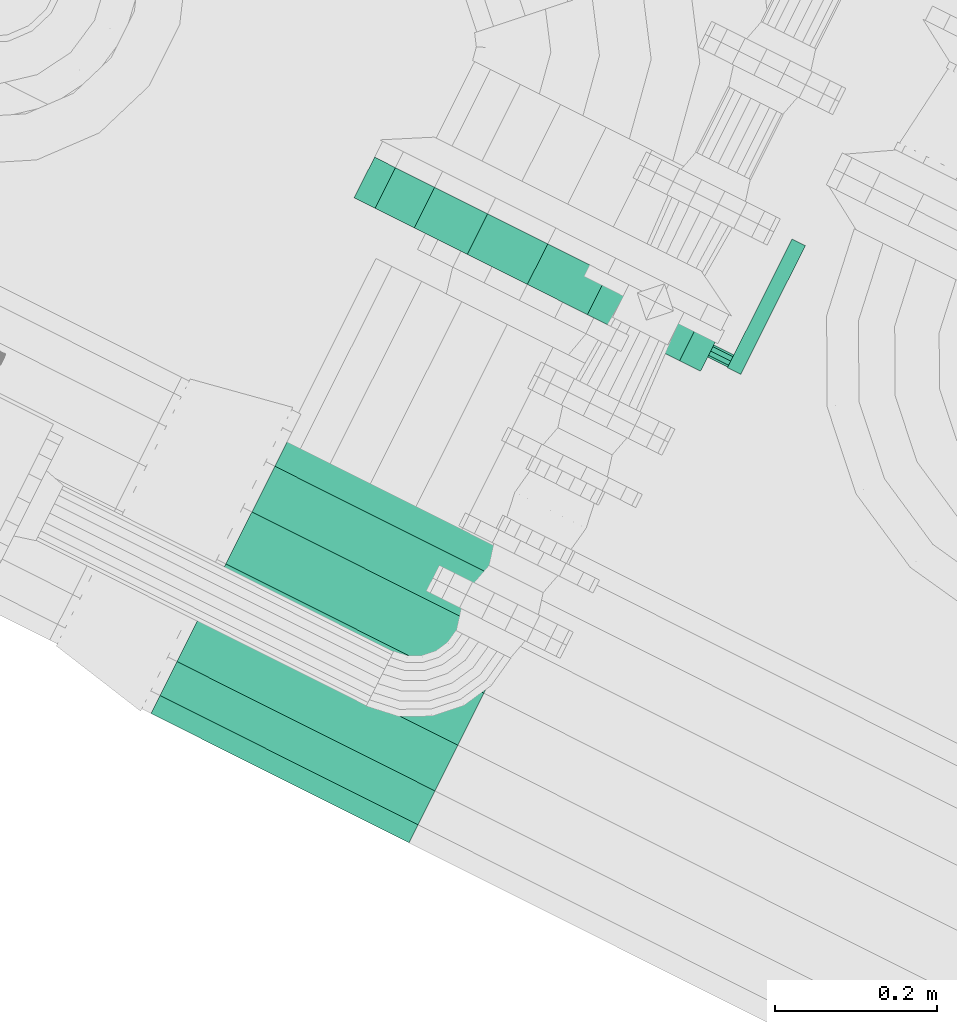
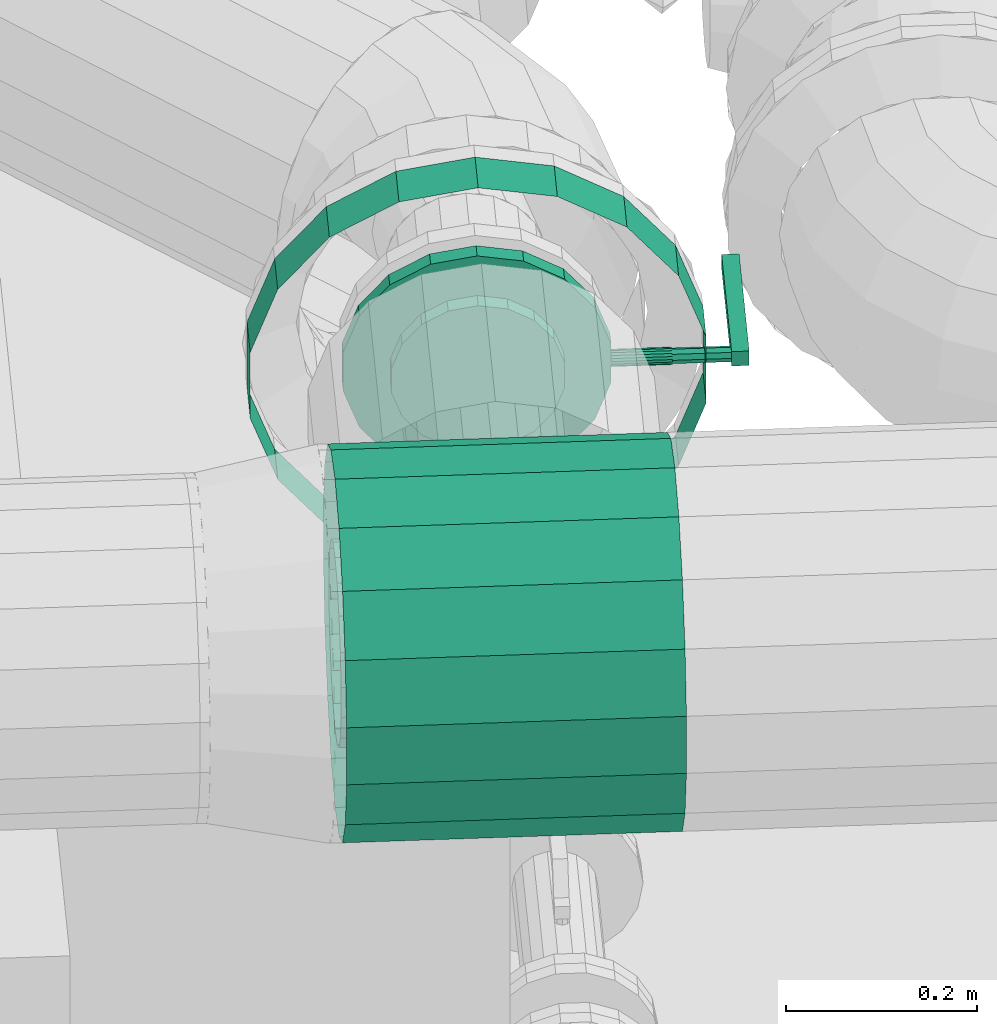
# One storey, part 57 of 206: 1 flow controller, 1 flow fitting.
"""IFC2X3 building model written with IfcOpenShell, lengths in metres."""

from ifc_helpers import new_model, si_unit, derived_unit, direction, frame, origin, place, context, subcontext, project, spatial, face_set, surface_model, source, transform, mapped, material, type_object, type_shapes, element, save


model = new_model("IFC2X3")

# Units and contexts
model_context = context("Model", 3, precision=5.2338327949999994e-05, world=origin(), true_north=direction((0.0, 1.0)))
body_context = subcontext(model_context, "Body", "Model", "MODEL_VIEW")
ifc_project = project(units=[si_unit("LENGTHUNIT", "METRE"), si_unit("AREAUNIT", "SQUARE_METRE"), si_unit("VOLUMEUNIT", "CUBIC_METRE"), si_unit("MASSUNIT", "GRAM", prefix="KILO"), si_unit("PLANEANGLEUNIT", "RADIAN"), derived_unit("THERMALTRANSMITTANCEUNIT", [(si_unit("MASSUNIT", "GRAM", prefix="KILO"), 1), (si_unit("THERMODYNAMICTEMPERATUREUNIT", "KELVIN"), -1), (si_unit("TIMEUNIT", "SECOND"), -3)])], contexts=[model_context])

# Site, building, storey
site_placement = place(None, frame((0.0, 0.0, 0.0), z_axis=(0.0, 0.0, 1.0), x_axis=(0.8939966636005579, -0.4480736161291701, 0.0)))
site = spatial("IfcSite", under=ifc_project, at=site_placement, Name="Default", CompositionType="ELEMENT")
building_placement = place(site_placement, origin())
building = spatial("IfcBuilding", under=site, at=building_placement, CompositionType="ELEMENT")
storey_placement = place(building_placement, origin())
storey = spatial("IfcBuildingStorey", under=building, at=storey_placement, Name="Erdgeschoss", CompositionType="ELEMENT", Elevation=0.0)

# Flow controller
ifc_material = material(Name="IfcSurfaceStyle #9317")
distribution_element_type_1 = type_object("IfcDistributionElementType", Name="Zwischenflanschklappe 343081:Zwischenflanschklappe 343081", material=ifc_material)
shared_shape_1 = source(origin(), body_context, "Body", "SurfaceModel", [
    surface_model("IfcFaceBasedSurfaceModel", [(25.206998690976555, 5.5402121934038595, 2.3448), (25.206998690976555, 5.36271219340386, 2.3448), (25.206998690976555, 5.36271219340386, 2.3632), (25.206998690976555, 5.5402121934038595, 2.3632), (25.225398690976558, 5.36271219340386, 2.3632), (25.225398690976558, 5.5402121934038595, 2.3632), (25.225398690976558, 5.36271219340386, 2.3448), (25.225398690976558, 5.5402121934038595, 2.3448), (24.940398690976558, 5.3999121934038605, 2.4460000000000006), (24.908932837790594, 5.3999121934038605, 2.440451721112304), (24.908932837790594, 5.381245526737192, 2.440451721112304), (24.940398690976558, 5.381245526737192, 2.4460000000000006), (24.881262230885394, 5.3999121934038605, 2.4244760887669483), (24.881262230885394, 5.381245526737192, 2.4244760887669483), (24.860724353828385, 5.3999121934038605, 2.399999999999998), (24.860724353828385, 5.381245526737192, 2.399999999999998), (24.849796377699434, 5.3999121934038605, 2.3699756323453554), (24.849796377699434, 5.381245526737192, 2.3699756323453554), (24.849796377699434, 5.3999121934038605, 2.3380243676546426), (24.849796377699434, 5.381245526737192, 2.3380243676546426), (24.860724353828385, 5.3999121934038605, 2.3080000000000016), (24.860724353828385, 5.381245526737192, 2.3080000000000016), (24.881262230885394, 5.3999121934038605, 2.283523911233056), (24.881262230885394, 5.381245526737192, 2.283523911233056), (24.908932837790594, 5.3999121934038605, 2.2675482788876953), (24.908932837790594, 5.381245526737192, 2.2675482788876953), (24.940398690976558, 5.3999121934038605, 2.2620000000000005), (24.940398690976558, 5.381245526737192, 2.2620000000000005), (24.971864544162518, 5.3999121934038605, 2.2675482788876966), (24.971864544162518, 5.381245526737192, 2.2675482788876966), (24.999535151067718, 5.3999121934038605, 2.283523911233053), (24.999535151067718, 5.381245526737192, 2.283523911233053), (25.020073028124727, 5.3999121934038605, 2.3080000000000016), (25.020073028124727, 5.381245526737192, 2.3080000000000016), (25.03100100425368, 5.3999121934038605, 2.3380243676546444), (25.03100100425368, 5.381245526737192, 2.3380243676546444), (25.03100100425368, 5.3999121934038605, 2.3699756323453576), (25.03100100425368, 5.381245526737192, 2.3699756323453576), (25.020073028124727, 5.3999121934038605, 2.399999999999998), (25.020073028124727, 5.381245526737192, 2.399999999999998), (24.999535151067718, 5.3999121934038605, 2.4244760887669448), (24.999535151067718, 5.381245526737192, 2.4244760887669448), (24.971864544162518, 5.3999121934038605, 2.4404517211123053), (24.971864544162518, 5.381245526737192, 2.4404517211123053), (24.940398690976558, 5.39991219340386, 2.354), (24.940398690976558, 5.381245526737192, 2.354), (24.940398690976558, 5.381245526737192, 2.4964999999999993), (24.89166082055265, 5.381245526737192, 2.487906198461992), (24.89166082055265, 5.362578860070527, 2.487906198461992), (24.940398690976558, 5.362578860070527, 2.4964999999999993), (24.848801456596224, 5.381245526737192, 2.4631613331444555), (24.848801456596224, 5.362578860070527, 2.4631613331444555), (24.81699007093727, 5.381245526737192, 2.4252499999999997), (24.81699007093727, 5.362578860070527, 2.4252499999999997), (24.800063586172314, 5.381245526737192, 2.3787448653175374), (24.800063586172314, 5.362578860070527, 2.3787448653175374), (24.800063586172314, 5.381245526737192, 2.3292551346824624), (24.800063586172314, 5.362578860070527, 2.3292551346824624), (24.81699007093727, 5.381245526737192, 2.28275), (24.81699007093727, 5.362578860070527, 2.28275), (24.848801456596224, 5.381245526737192, 2.2448386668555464), (24.848801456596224, 5.362578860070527, 2.2448386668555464), (24.89166082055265, 5.381245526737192, 2.2200938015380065), (24.89166082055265, 5.362578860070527, 2.2200938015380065), (24.940398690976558, 5.381245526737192, 2.2115000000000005), (24.940398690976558, 5.362578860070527, 2.2115000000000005), (24.98913656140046, 5.381245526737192, 2.220093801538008), (24.98913656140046, 5.362578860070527, 2.220093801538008), (25.031995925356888, 5.381245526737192, 2.2448386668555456), (25.031995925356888, 5.362578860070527, 2.2448386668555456), (25.063807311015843, 5.381245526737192, 2.28275), (25.063807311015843, 5.362578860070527, 2.28275), (25.080733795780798, 5.381245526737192, 2.3292551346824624), (25.080733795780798, 5.362578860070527, 2.3292551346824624), (25.080733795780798, 5.381245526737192, 2.3787448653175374), (25.080733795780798, 5.362578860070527, 2.3787448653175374), (25.063807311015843, 5.381245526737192, 2.4252499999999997), (25.063807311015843, 5.362578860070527, 2.4252499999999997), (25.031995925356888, 5.381245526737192, 2.4631613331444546), (25.031995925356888, 5.362578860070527, 2.4631613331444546), (24.98913656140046, 5.381245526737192, 2.4879061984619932), (24.98913656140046, 5.362578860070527, 2.4879061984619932), (24.940398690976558, 5.362578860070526, 2.354), (24.940398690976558, 5.362578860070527, 2.4460000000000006), (24.908932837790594, 5.362578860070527, 2.440451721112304), (24.908932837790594, 5.3439121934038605, 2.440451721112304), (24.940398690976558, 5.3439121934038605, 2.4460000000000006), (24.881262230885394, 5.362578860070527, 2.4244760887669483), (24.881262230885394, 5.3439121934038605, 2.4244760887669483), (24.860724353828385, 5.362578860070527, 2.399999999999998), (24.860724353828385, 5.3439121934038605, 2.399999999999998), (24.849796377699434, 5.362578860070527, 2.3699756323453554), (24.849796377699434, 5.3439121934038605, 2.3699756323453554), (24.849796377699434, 5.362578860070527, 2.3380243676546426), (24.849796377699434, 5.3439121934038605, 2.3380243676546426), (24.860724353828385, 5.362578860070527, 2.3080000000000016), (24.860724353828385, 5.3439121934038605, 2.3080000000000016), (24.881262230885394, 5.362578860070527, 2.283523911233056), (24.881262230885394, 5.3439121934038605, 2.283523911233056), (24.908932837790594, 5.362578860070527, 2.2675482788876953), (24.908932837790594, 5.3439121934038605, 2.2675482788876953), (24.940398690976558, 5.362578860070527, 2.2620000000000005), (24.940398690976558, 5.3439121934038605, 2.2620000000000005), (24.971864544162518, 5.362578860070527, 2.2675482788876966), (24.971864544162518, 5.3439121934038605, 2.2675482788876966), (24.999535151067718, 5.362578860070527, 2.283523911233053), (24.999535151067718, 5.3439121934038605, 2.283523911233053), (25.020073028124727, 5.362578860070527, 2.3080000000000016), (25.020073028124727, 5.3439121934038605, 2.3080000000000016), (25.03100100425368, 5.362578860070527, 2.3380243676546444), (25.03100100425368, 5.3439121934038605, 2.3380243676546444), (25.03100100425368, 5.362578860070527, 2.3699756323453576), (25.03100100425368, 5.3439121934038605, 2.3699756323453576), (25.020073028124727, 5.362578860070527, 2.399999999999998), (25.020073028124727, 5.3439121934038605, 2.399999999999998), (24.999535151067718, 5.362578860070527, 2.4244760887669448), (24.999535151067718, 5.3439121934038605, 2.4244760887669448), (24.971864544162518, 5.362578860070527, 2.4404517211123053), (24.971864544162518, 5.3439121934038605, 2.4404517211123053), (24.940398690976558, 5.343912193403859, 2.354), (24.940398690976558, 5.37191219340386, 2.3633333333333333), (24.940398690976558, 5.368720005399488, 2.362770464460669), (25.144948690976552, 5.368720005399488, 2.362770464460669), (25.144948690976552, 5.37191219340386, 2.3633333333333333), (24.940398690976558, 5.365912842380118, 2.361149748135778), (25.144948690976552, 5.365912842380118, 2.361149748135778), (24.940398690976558, 5.363829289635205, 2.3586666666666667), (25.144948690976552, 5.363829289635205, 2.3586666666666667), (24.940398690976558, 5.362720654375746, 2.355620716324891), (25.144948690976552, 5.362720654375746, 2.355620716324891), (24.940398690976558, 5.362720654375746, 2.3523792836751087), (25.144948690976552, 5.362720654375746, 2.3523792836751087), (24.940398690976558, 5.363829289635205, 2.349333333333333), (25.144948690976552, 5.363829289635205, 2.349333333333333), (24.940398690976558, 5.365912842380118, 2.346850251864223), (25.144948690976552, 5.365912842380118, 2.346850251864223), (24.940398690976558, 5.368720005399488, 2.3452295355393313), (25.144948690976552, 5.368720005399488, 2.3452295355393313), (24.940398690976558, 5.37191219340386, 2.344666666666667), (25.144948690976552, 5.37191219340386, 2.344666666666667), (24.940398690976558, 5.375104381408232, 2.3452295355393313), (25.144948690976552, 5.375104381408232, 2.3452295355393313), (24.940398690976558, 5.377911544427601, 2.3468502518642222), (25.144948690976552, 5.377911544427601, 2.3468502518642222), (24.940398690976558, 5.379995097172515, 2.349333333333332), (25.144948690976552, 5.379995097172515, 2.349333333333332), (24.940398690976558, 5.381103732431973, 2.3523792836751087), (25.144948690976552, 5.381103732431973, 2.3523792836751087), (24.940398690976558, 5.381103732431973, 2.355620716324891), (25.144948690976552, 5.381103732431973, 2.355620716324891), (24.940398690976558, 5.379995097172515, 2.358666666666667), (25.144948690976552, 5.379995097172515, 2.358666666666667), (24.940398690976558, 5.377911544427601, 2.361149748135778), (25.144948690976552, 5.377911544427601, 2.361149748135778), (24.940398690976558, 5.375104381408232, 2.3627704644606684), (25.144948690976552, 5.375104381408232, 2.3627704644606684), (24.940398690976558, 5.37191219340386, 2.354), (25.144948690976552, 5.37191219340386, 2.354), (25.144948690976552, 5.37191219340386, 2.3624150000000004), (25.144948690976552, 5.365961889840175, 2.359950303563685), (25.206998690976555, 5.365961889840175, 2.359950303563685), (25.206998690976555, 5.37191219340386, 2.3624150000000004), (25.144948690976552, 5.363497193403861, 2.354), (25.206998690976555, 5.363497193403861, 2.354), (25.144948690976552, 5.365961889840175, 2.3480496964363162), (25.206998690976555, 5.365961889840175, 2.3480496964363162), (25.144948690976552, 5.37191219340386, 2.3455850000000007), (25.206998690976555, 5.37191219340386, 2.3455850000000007), (25.144948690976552, 5.377862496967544, 2.3480496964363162), (25.206998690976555, 5.377862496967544, 2.3480496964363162), (25.144948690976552, 5.3803271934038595, 2.3539999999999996), (25.206998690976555, 5.3803271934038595, 2.3539999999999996), (25.144948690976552, 5.377862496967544, 2.3599503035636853), (25.206998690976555, 5.377862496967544, 2.3599503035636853), (25.20699869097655, 5.37191219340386, 2.354), (24.940398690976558, 5.3999121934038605, 2.5965000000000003), (24.85745880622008, 5.3999121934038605, 2.581875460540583), (24.85745880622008, 5.3439121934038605, 2.581875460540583), (24.940398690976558, 5.3439121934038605, 2.5965000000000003), (24.78452269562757, 5.3999121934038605, 2.539765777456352), (24.78452269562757, 5.3439121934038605, 2.539765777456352), (24.730387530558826, 5.3999121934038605, 2.47525), (24.730387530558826, 5.3439121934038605, 2.47525), (24.7015828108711, 5.3999121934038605, 2.3961096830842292), (24.7015828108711, 5.3439121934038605, 2.3961096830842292), (24.7015828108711, 5.3999121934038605, 2.311890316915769), (24.7015828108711, 5.3439121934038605, 2.311890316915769), (24.730387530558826, 5.3999121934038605, 2.232750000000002), (24.730387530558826, 5.3439121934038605, 2.232750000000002), (24.78452269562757, 5.3999121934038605, 2.1682342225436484), (24.78452269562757, 5.3439121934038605, 2.1682342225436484), (24.85745880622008, 5.3999121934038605, 2.126124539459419), (24.85745880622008, 5.3439121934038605, 2.126124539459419), (24.940398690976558, 5.3999121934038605, 2.1115000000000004), (24.940398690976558, 5.3439121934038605, 2.1115000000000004), (25.023338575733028, 5.3999121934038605, 2.126124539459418), (25.023338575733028, 5.3439121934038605, 2.126124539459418), (25.096274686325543, 5.3999121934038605, 2.1682342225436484), (25.096274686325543, 5.3439121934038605, 2.1682342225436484), (25.150409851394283, 5.3999121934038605, 2.232750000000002), (25.150409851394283, 5.3439121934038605, 2.232750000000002), (25.179214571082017, 5.3999121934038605, 2.311890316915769), (25.179214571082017, 5.3439121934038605, 2.311890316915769), (25.179214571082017, 5.3999121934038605, 2.396109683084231), (25.179214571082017, 5.3439121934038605, 2.396109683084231), (25.150409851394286, 5.3999121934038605, 2.475249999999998), (25.150409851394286, 5.3439121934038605, 2.475249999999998), (25.096274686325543, 5.3999121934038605, 2.5397657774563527), (25.096274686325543, 5.3439121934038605, 2.5397657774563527), (25.023338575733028, 5.3999121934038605, 2.581875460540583), (25.023338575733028, 5.3439121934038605, 2.581875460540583)], [face_set([[[0, 1, 2, 3]], [[3, 2, 4, 5]], [[5, 4, 6, 7]], [[7, 6, 1, 0]], [[0, 3, 5, 7]], [[6, 4, 2, 1]], [[8, 9, 10, 11]], [[9, 12, 13, 10]], [[12, 14, 15, 13]], [[14, 16, 17, 15]], [[16, 18, 19, 17]], [[18, 20, 21, 19]], [[20, 22, 23, 21]], [[22, 24, 25, 23]], [[24, 26, 27, 25]], [[26, 28, 29, 27]], [[28, 30, 31, 29]], [[30, 32, 33, 31]], [[32, 34, 35, 33]], [[34, 36, 37, 35]], [[36, 38, 39, 37]], [[38, 40, 41, 39]], [[40, 42, 43, 41]], [[42, 8, 11, 43]], [[44, 9, 8]], [[44, 12, 9]], [[44, 14, 12]], [[44, 16, 14]], [[44, 18, 16]], [[44, 20, 18]], [[44, 22, 20]], [[44, 24, 22]], [[44, 26, 24]], [[44, 28, 26]], [[44, 30, 28]], [[44, 32, 30]], [[44, 34, 32]], [[44, 36, 34]], [[44, 38, 36]], [[44, 40, 38]], [[44, 42, 40]], [[44, 8, 42]], [[45, 43, 11]], [[45, 41, 43]], [[45, 39, 41]], [[45, 37, 39]], [[45, 35, 37]], [[45, 33, 35]], [[45, 31, 33]], [[45, 29, 31]], [[45, 27, 29]], [[45, 25, 27]], [[45, 23, 25]], [[45, 21, 23]], [[45, 19, 21]], [[45, 17, 19]], [[45, 15, 17]], [[45, 13, 15]], [[45, 10, 13]], [[45, 11, 10]], [[46, 47, 48, 49]], [[47, 50, 51, 48]], [[50, 52, 53, 51]], [[52, 54, 55, 53]], [[54, 56, 57, 55]], [[56, 58, 59, 57]], [[58, 60, 61, 59]], [[60, 62, 63, 61]], [[62, 64, 65, 63]], [[64, 66, 67, 65]], [[66, 68, 69, 67]], [[68, 70, 71, 69]], [[70, 72, 73, 71]], [[72, 74, 75, 73]], [[74, 76, 77, 75]], [[76, 78, 79, 77]], [[78, 80, 81, 79]], [[80, 46, 49, 81]], [[45, 47, 46]], [[45, 50, 47]], [[45, 52, 50]], [[45, 54, 52]], [[45, 56, 54]], [[45, 58, 56]], [[45, 60, 58]], [[45, 62, 60]], [[45, 64, 62]], [[45, 66, 64]], [[45, 68, 66]], [[45, 70, 68]], [[45, 72, 70]], [[45, 74, 72]], [[45, 76, 74]], [[45, 78, 76]], [[45, 80, 78]], [[45, 46, 80]], [[82, 81, 49]], [[82, 79, 81]], [[82, 77, 79]], [[82, 75, 77]], [[82, 73, 75]], [[82, 71, 73]], [[82, 69, 71]], [[82, 67, 69]], [[82, 65, 67]], [[82, 63, 65]], [[82, 61, 63]], [[82, 59, 61]], [[82, 57, 59]], [[82, 55, 57]], [[82, 53, 55]], [[82, 51, 53]], [[82, 48, 51]], [[82, 49, 48]], [[83, 84, 85, 86]], [[84, 87, 88, 85]], [[87, 89, 90, 88]], [[89, 91, 92, 90]], [[91, 93, 94, 92]], [[93, 95, 96, 94]], [[95, 97, 98, 96]], [[97, 99, 100, 98]], [[99, 101, 102, 100]], [[101, 103, 104, 102]], [[103, 105, 106, 104]], [[105, 107, 108, 106]], [[107, 109, 110, 108]], [[109, 111, 112, 110]], [[111, 113, 114, 112]], [[113, 115, 116, 114]], [[115, 117, 118, 116]], [[117, 83, 86, 118]], [[82, 84, 83]], [[82, 87, 84]], [[82, 89, 87]], [[82, 91, 89]], [[82, 93, 91]], [[82, 95, 93]], [[82, 97, 95]], [[82, 99, 97]], [[82, 101, 99]], [[82, 103, 101]], [[82, 105, 103]], [[82, 107, 105]], [[82, 109, 107]], [[82, 111, 109]], [[82, 113, 111]], [[82, 115, 113]], [[82, 117, 115]], [[82, 83, 117]], [[119, 118, 86]], [[119, 116, 118]], [[119, 114, 116]], [[119, 112, 114]], [[119, 110, 112]], [[119, 108, 110]], [[119, 106, 108]], [[119, 104, 106]], [[119, 102, 104]], [[119, 100, 102]], [[119, 98, 100]], [[119, 96, 98]], [[119, 94, 96]], [[119, 92, 94]], [[119, 90, 92]], [[119, 88, 90]], [[119, 85, 88]], [[119, 86, 85]], [[120, 121, 122, 123]], [[121, 124, 125, 122]], [[124, 126, 127, 125]], [[126, 128, 129, 127]], [[128, 130, 131, 129]], [[130, 132, 133, 131]], [[132, 134, 135, 133]], [[134, 136, 137, 135]], [[136, 138, 139, 137]], [[138, 140, 141, 139]], [[140, 142, 143, 141]], [[142, 144, 145, 143]], [[144, 146, 147, 145]], [[146, 148, 149, 147]], [[148, 150, 151, 149]], [[150, 152, 153, 151]], [[152, 154, 155, 153]], [[154, 120, 123, 155]], [[156, 121, 120]], [[156, 124, 121]], [[156, 126, 124]], [[156, 128, 126]], [[156, 130, 128]], [[156, 132, 130]], [[156, 134, 132]], [[156, 136, 134]], [[156, 138, 136]], [[156, 140, 138]], [[156, 142, 140]], [[156, 144, 142]], [[156, 146, 144]], [[156, 148, 146]], [[156, 150, 148]], [[156, 152, 150]], [[156, 154, 152]], [[156, 120, 154]], [[157, 155, 123]], [[157, 153, 155]], [[157, 151, 153]], [[157, 149, 151]], [[157, 147, 149]], [[157, 145, 147]], [[157, 143, 145]], [[157, 141, 143]], [[157, 139, 141]], [[157, 137, 139]], [[157, 135, 137]], [[157, 133, 135]], [[157, 131, 133]], [[157, 129, 131]], [[157, 127, 129]], [[157, 125, 127]], [[157, 122, 125]], [[157, 123, 122]], [[158, 159, 160, 161]], [[159, 162, 163, 160]], [[162, 164, 165, 163]], [[164, 166, 167, 165]], [[166, 168, 169, 167]], [[168, 170, 171, 169]], [[170, 172, 173, 171]], [[172, 158, 161, 173]], [[174, 173, 161]], [[174, 171, 173]], [[174, 169, 171]], [[174, 167, 169]], [[174, 165, 167]], [[174, 163, 165]], [[174, 160, 163]], [[174, 161, 160]], [[175, 176, 177, 178]], [[176, 179, 180, 177]], [[179, 181, 182, 180]], [[181, 183, 184, 182]], [[183, 185, 186, 184]], [[185, 187, 188, 186]], [[187, 189, 190, 188]], [[189, 191, 192, 190]], [[191, 193, 194, 192]], [[193, 195, 196, 194]], [[195, 197, 198, 196]], [[197, 199, 200, 198]], [[199, 201, 202, 200]], [[201, 203, 204, 202]], [[203, 205, 206, 204]], [[205, 207, 208, 206]], [[207, 209, 210, 208]], [[209, 175, 178, 210]]])]),
])
type_shapes(distribution_element_type_1, [shared_shape_1])
flow_controller_placement = place(storey_placement, origin())
element("IfcFlowController", 1, at=flow_controller_placement, inside=storey, type_object=distribution_element_type_1, material=ifc_material, Name="Zwischenflanschklappe", ObjectType="Zwischenflanschklappe", context=body_context, shape_type="MappedRepresentation", body=[
    mapped(shared_shape_1, transform((0.0, 0.0, 0.0), scale=1.0)),
])

# Flow fitting
distribution_element_type_2 = type_object("IfcDistributionElementType", Name="Abzweigstück 343477:Abzweigstück 343477", material=ifc_material)
shared_shape_2 = source(origin(), body_context, "Body", "SurfaceModel", [
    surface_model("IfcFaceBasedSurfaceModel", [(25.11839869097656, 4.869312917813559, 2.2444499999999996), (25.11839869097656, 4.831844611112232, 2.251056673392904), (24.762398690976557, 4.831844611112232, 2.251056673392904), (24.762398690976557, 4.869312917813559, 2.2444499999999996), (25.11839869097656, 4.7988955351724, 2.270079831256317), (24.762398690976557, 4.7988955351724, 2.270079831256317), (25.11839869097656, 4.774439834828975, 2.299225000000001), (24.762398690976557, 4.774439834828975, 2.299225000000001), (25.11839869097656, 4.761427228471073, 2.3349768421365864), (24.762398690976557, 4.761427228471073, 2.3349768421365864), (25.11839869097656, 4.761427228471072, 2.3730231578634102), (24.762398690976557, 4.761427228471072, 2.3730231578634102), (25.11839869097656, 4.774439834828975, 2.4087750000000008), (24.762398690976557, 4.774439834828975, 2.4087750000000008), (25.11839869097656, 4.7988955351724, 2.437920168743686), (24.762398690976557, 4.7988955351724, 2.437920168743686), (25.11839869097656, 4.831844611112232, 2.4569433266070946), (24.762398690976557, 4.831844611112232, 2.4569433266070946), (25.11839869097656, 4.869312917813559, 2.4635500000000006), (24.762398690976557, 4.869312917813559, 2.4635500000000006), (25.11839869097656, 4.906781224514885, 2.456943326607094), (24.762398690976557, 4.906781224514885, 2.456943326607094), (25.11839869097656, 4.93973030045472, 2.4379201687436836), (24.762398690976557, 4.93973030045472, 2.4379201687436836), (25.11839869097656, 4.9641860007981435, 2.4087749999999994), (24.762398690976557, 4.9641860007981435, 2.4087749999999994), (25.11839869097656, 4.977198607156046, 2.3730231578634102), (24.762398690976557, 4.977198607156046, 2.3730231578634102), (25.11839869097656, 4.977198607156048, 2.334976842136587), (24.762398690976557, 4.977198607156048, 2.334976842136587), (25.11839869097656, 4.9641860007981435, 2.299225), (24.762398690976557, 4.9641860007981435, 2.299225), (25.11839869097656, 4.939730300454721, 2.270079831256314), (24.762398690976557, 4.939730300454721, 2.270079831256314), (25.11839869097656, 4.906781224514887, 2.2510566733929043), (24.762398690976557, 4.906781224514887, 2.2510566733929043), (24.856248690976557, 4.97886291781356, 2.3539999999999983), (24.861323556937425, 4.975014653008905, 2.3827809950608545), (24.861323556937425, 5.0373129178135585, 2.3827809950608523), (24.856248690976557, 5.0373129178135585, 2.353999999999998), (24.875936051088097, 4.964577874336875, 2.408090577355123), (24.875936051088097, 5.037312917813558, 2.4080905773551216), (24.89832369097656, 4.951107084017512, 2.4268760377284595), (24.89832369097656, 5.0373129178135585, 2.4268760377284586), (24.925786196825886, 4.940961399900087, 2.4368715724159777), (24.925786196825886, 5.0373129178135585, 2.4368715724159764), (24.955011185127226, 4.940961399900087, 2.436871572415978), (24.955011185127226, 5.0373129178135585, 2.436871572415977), (24.98247369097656, 4.951107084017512, 2.42687603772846), (24.98247369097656, 5.0373129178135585, 2.426876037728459), (25.00486133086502, 4.964577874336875, 2.4080905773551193), (25.00486133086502, 5.037312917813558, 2.408090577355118), (25.01947382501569, 4.975014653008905, 2.3827809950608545), (25.01947382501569, 5.0373129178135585, 2.3827809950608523), (25.02454869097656, 4.97886291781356, 2.3539999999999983), (25.02454869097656, 5.0373129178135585, 2.353999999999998), (25.01947382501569, 4.975014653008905, 2.325219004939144), (25.01947382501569, 5.0373129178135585, 2.3252190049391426), (25.00486133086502, 4.964577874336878, 2.299909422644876), (25.00486133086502, 5.0373129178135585, 2.299909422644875), (24.98247369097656, 4.951107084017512, 2.2811239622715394), (24.98247369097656, 5.03731291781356, 2.281123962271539), (24.955011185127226, 4.940961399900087, 2.271128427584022), (24.955011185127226, 5.03731291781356, 2.2711284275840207), (24.925786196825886, 4.940961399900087, 2.2711284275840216), (24.925786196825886, 5.03731291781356, 2.2711284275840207), (24.89832369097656, 4.951107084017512, 2.2811239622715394), (24.89832369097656, 5.03731291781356, 2.2811239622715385), (24.875936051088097, 4.964577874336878, 2.2999094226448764), (24.875936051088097, 5.0373129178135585, 2.2999094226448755), (24.861323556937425, 4.975014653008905, 2.3252190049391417), (24.86132355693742, 5.0373129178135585, 2.3252190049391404), (25.11839869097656, 4.869312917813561, 2.144449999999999), (25.11839869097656, 4.7976425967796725, 2.15708741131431), (24.762398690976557, 4.797642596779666, 2.1570874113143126), (24.762398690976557, 4.869312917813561, 2.144450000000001), (25.11839869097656, 4.734616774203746, 2.1934753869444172), (24.762398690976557, 4.734616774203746, 2.1934753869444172), (25.11839869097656, 4.6878372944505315, 2.2492250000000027), (24.762398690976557, 4.6878372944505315, 2.2492250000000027), (25.11839869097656, 4.662946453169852, 2.317612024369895), (24.762398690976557, 4.662946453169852, 2.317612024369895), (25.11839869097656, 4.662946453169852, 2.390387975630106), (24.762398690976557, 4.662946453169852, 2.390387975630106), (25.11839869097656, 4.68783729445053, 2.458775), (24.762398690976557, 4.68783729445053, 2.458775), (25.11839869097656, 4.734616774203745, 2.514524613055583), (24.762398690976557, 4.734616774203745, 2.514524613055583), (25.11839869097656, 4.797642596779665, 2.550912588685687), (24.762398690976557, 4.797642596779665, 2.550912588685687), (25.11839869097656, 4.869312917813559, 2.563549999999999), (24.762398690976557, 4.869312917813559, 2.563549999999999), (25.11839869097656, 4.940983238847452, 2.550912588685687), (24.762398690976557, 4.940983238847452, 2.550912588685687), (25.11839869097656, 5.004009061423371, 2.514524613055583), (24.762398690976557, 5.004009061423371, 2.514524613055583), (25.11839869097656, 5.050788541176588, 2.458774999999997), (24.762398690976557, 5.050788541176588, 2.458774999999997), (25.11839869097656, 5.075679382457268, 2.3903879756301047), (24.762398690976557, 5.075679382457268, 2.3903879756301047), (25.11839869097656, 5.075679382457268, 2.3176120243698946), (24.762398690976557, 5.075679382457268, 2.3176120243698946), (25.11839869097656, 5.05078854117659, 2.2492249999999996), (24.762398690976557, 5.05078854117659, 2.2492249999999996), (25.11839869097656, 5.004009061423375, 2.193475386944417), (24.762398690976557, 5.004009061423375, 2.193475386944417), (25.11839869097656, 4.940983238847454, 2.157087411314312), (24.762398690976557, 4.940983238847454, 2.157087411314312)], [face_set([[[0, 1, 2, 3]], [[1, 4, 5, 2]], [[4, 6, 7, 5]], [[6, 8, 9, 7]], [[8, 10, 11, 9]], [[10, 12, 13, 11]], [[12, 14, 15, 13]], [[14, 16, 17, 15]], [[16, 18, 19, 17]], [[18, 20, 21, 19]], [[20, 22, 23, 21]], [[22, 24, 25, 23]], [[24, 26, 27, 25]], [[26, 28, 29, 27]], [[28, 30, 31, 29]], [[30, 32, 33, 31]], [[32, 34, 35, 33]], [[34, 0, 3, 35]], [[36, 37, 38, 39]], [[37, 40, 41, 38]], [[40, 42, 43, 41]], [[42, 44, 45, 43]], [[44, 46, 47, 45]], [[46, 48, 49, 47]], [[48, 50, 51, 49]], [[50, 52, 53, 51]], [[52, 54, 55, 53]], [[54, 56, 57, 55]], [[56, 58, 59, 57]], [[58, 60, 61, 59]], [[60, 62, 63, 61]], [[62, 64, 65, 63]], [[64, 66, 67, 65]], [[66, 68, 69, 67]], [[68, 70, 71, 69]], [[70, 36, 39, 71]], [[72, 73, 74, 75]], [[73, 76, 77, 74]], [[76, 78, 79, 77]], [[78, 80, 81, 79]], [[80, 82, 83, 81]], [[82, 84, 85, 83]], [[84, 86, 87, 85]], [[86, 88, 89, 87]], [[88, 90, 91, 89]], [[90, 92, 93, 91]], [[92, 94, 95, 93]], [[94, 96, 97, 95]], [[96, 98, 99, 97]], [[98, 100, 101, 99]], [[100, 102, 103, 101]], [[102, 104, 105, 103]], [[104, 106, 107, 105]], [[106, 72, 75, 107]]])]),
])
type_shapes(distribution_element_type_2, [shared_shape_2])
flow_fitting_placement = place(storey_placement, origin())
element("IfcFlowFitting", 2, at=flow_fitting_placement, inside=storey, type_object=distribution_element_type_2, material=ifc_material, Name="Abzweigstück", ObjectType="Abzweigstück", context=body_context, shape_type="MappedRepresentation", body=[
    mapped(shared_shape_2, transform((0.0, 0.0, 0.0), scale=1.0)),
])

save(model, "model.ifc")
